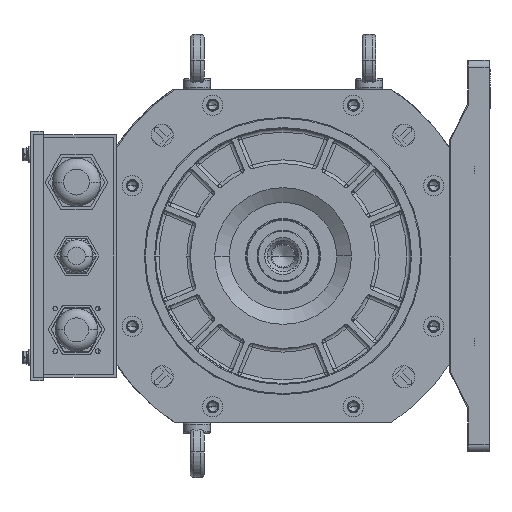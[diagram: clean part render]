
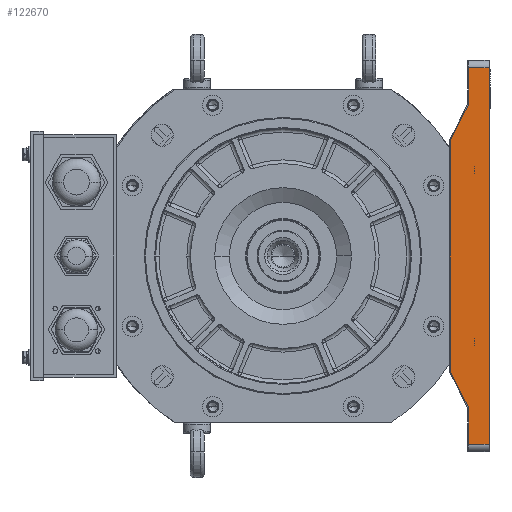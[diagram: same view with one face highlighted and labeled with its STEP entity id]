
A CAD part, left-side view. The second image highlights one B-rep face of the part: STEP entity #122670.
In plain terms, the highlighted planar face has unit normal (-1, 0, 0) as drawn and (0, 0, -1) by its records, which use the part's own axes.
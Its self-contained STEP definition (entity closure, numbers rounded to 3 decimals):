
#8 = DIRECTION ( 'NONE',  ( 0., 0., 1. ) ) ;
#4082 = ORIENTED_EDGE ( 'NONE', *, *, #98882, .T. ) ;
#5050 = DIRECTION ( 'NONE',  ( 1., 0., 0. ) ) ;
#5333 = EDGE_LOOP ( 'NONE', ( #4082, #30727, #104658, #9723, #30858, #73038, #33603, #7751, #75173, #67151 ) ) ;
#5356 = EDGE_CURVE ( 'NONE', #90296, #63353, #114472, .T. ) ;
#7751 = ORIENTED_EDGE ( 'NONE', *, *, #59859, .T. ) ;
#7775 = CARTESIAN_POINT ( 'NONE',  ( -102., 12., 0. ) ) ;
#8340 = DIRECTION ( 'NONE',  ( -1., 0., 0. ) ) ;
#8473 = LINE ( 'NONE', #99149, #28931 ) ;
#8678 = CARTESIAN_POINT ( 'NONE',  ( -62.382, 21.5, 0. ) ) ;
#9351 = AXIS2_PLACEMENT_3D ( 'NONE', #37580, #108153, #47701 ) ;
#9723 = ORIENTED_EDGE ( 'NONE', *, *, #76282, .T. ) ;
#17187 = CARTESIAN_POINT ( 'NONE',  ( 0., 0., 0. ) ) ;
#17742 = CARTESIAN_POINT ( 'NONE',  ( 82.171, 11.606, 0. ) ) ;
#18800 = AXIS2_PLACEMENT_3D ( 'NONE', #17187, #109218, #8340 ) ;
#21382 = CARTESIAN_POINT ( 'NONE',  ( 102., 11.5, 0. ) ) ;
#28098 = LINE ( 'NONE', #119529, #34350 ) ;
#28931 = VECTOR ( 'NONE', #40470, 1000. ) ;
#30727 = ORIENTED_EDGE ( 'NONE', *, *, #79163, .T. ) ;
#30858 = ORIENTED_EDGE ( 'NONE', *, *, #36137, .T. ) ;
#32602 = DIRECTION ( 'NONE',  ( 1., 0., 0. ) ) ;
#32683 = LINE ( 'NONE', #98127, #110035 ) ;
#33603 = ORIENTED_EDGE ( 'NONE', *, *, #5356, .T. ) ;
#34350 = VECTOR ( 'NONE', #79729, 1000. ) ;
#36137 = EDGE_CURVE ( 'NONE', #72475, #79836, #88054, .T. ) ;
#37580 = CARTESIAN_POINT ( 'NONE',  ( 82.618, 12.5, 0. ) ) ;
#38986 = DIRECTION ( 'NONE',  ( 0., 1., 0. ) ) ;
#40470 = DIRECTION ( 'NONE',  ( 0., -1., 0. ) ) ;
#44170 = LINE ( 'NONE', #76725, #47380 ) ;
#44971 = FACE_OUTER_BOUND ( 'NONE', #5333, .T. ) ;
#47380 = VECTOR ( 'NONE', #5050, 1000. ) ;
#47420 = CARTESIAN_POINT ( 'NONE',  ( 82.171, 11.606, 0. ) ) ;
#47701 = DIRECTION ( 'NONE',  ( -1., 0., 0. ) ) ;
#48458 = DIRECTION ( 'NONE',  ( 1., 0., 0. ) ) ;
#48826 = PLANE ( 'NONE',  #18800 ) ;
#50956 = DIRECTION ( 'NONE',  ( -1., 0., 0. ) ) ;
#52953 = LINE ( 'NONE', #108020, #114243 ) ;
#53711 = CARTESIAN_POINT ( 'NONE',  ( 62.382, 21.5, 0. ) ) ;
#57907 = CARTESIAN_POINT ( 'NONE',  ( -82.618, 11.5, 0. ) ) ;
#59233 = EDGE_CURVE ( 'NONE', #90784, #124784, #44170, .T. ) ;
#59859 = EDGE_CURVE ( 'NONE', #63353, #93573, #89856, .T. ) ;
#63353 = VERTEX_POINT ( 'NONE', #53711 ) ;
#64872 = VERTEX_POINT ( 'NONE', #91011 ) ;
#65145 = VERTEX_POINT ( 'NONE', #67225 ) ;
#66515 = CIRCLE ( 'NONE', #9351, 1. ) ;
#67055 = EDGE_CURVE ( 'NONE', #64872, #65145, #85827, .T. ) ;
#67151 = ORIENTED_EDGE ( 'NONE', *, *, #59233, .T. ) ;
#67225 = CARTESIAN_POINT ( 'NONE',  ( -102., 11.5, 0. ) ) ;
#70610 = VERTEX_POINT ( 'NONE', #85273 ) ;
#72475 = VERTEX_POINT ( 'NONE', #57907 ) ;
#73038 = ORIENTED_EDGE ( 'NONE', *, *, #104882, .T. ) ;
#75173 = ORIENTED_EDGE ( 'NONE', *, *, #113571, .T. ) ;
#76282 = EDGE_CURVE ( 'NONE', #65145, #72475, #52953, .T. ) ;
#76323 = VECTOR ( 'NONE', #38986, 1000. ) ;
#76725 = CARTESIAN_POINT ( 'NONE',  ( 102., 11.5, 0. ) ) ;
#79163 = EDGE_CURVE ( 'NONE', #70610, #64872, #32683, .T. ) ;
#79729 = DIRECTION ( 'NONE',  ( 0.894, 0.447, 0. ) ) ;
#79836 = VERTEX_POINT ( 'NONE', #122610 ) ;
#85273 = CARTESIAN_POINT ( 'NONE',  ( 102., 0.5, 0. ) ) ;
#85827 = LINE ( 'NONE', #7775, #76323 ) ;
#88054 = CIRCLE ( 'NONE', #104019, 1. ) ;
#89856 = LINE ( 'NONE', #17742, #96188 ) ;
#90296 = VERTEX_POINT ( 'NONE', #8678 ) ;
#90784 = VERTEX_POINT ( 'NONE', #128613 ) ;
#91011 = CARTESIAN_POINT ( 'NONE',  ( -102., 0.5, 0. ) ) ;
#93573 = VERTEX_POINT ( 'NONE', #47420 ) ;
#96188 = VECTOR ( 'NONE', #108537, 1000. ) ;
#98127 = CARTESIAN_POINT ( 'NONE',  ( -102., 0.5, 0. ) ) ;
#98882 = EDGE_CURVE ( 'NONE', #124784, #70610, #8473, .T. ) ;
#99149 = CARTESIAN_POINT ( 'NONE',  ( 102., 0., 0. ) ) ;
#101697 = CARTESIAN_POINT ( 'NONE',  ( -82.618, 12.5, 0. ) ) ;
#104019 = AXIS2_PLACEMENT_3D ( 'NONE', #101697, #8, #50956 ) ;
#104658 = ORIENTED_EDGE ( 'NONE', *, *, #67055, .T. ) ;
#104882 = EDGE_CURVE ( 'NONE', #79836, #90296, #28098, .T. ) ;
#108020 = CARTESIAN_POINT ( 'NONE',  ( -82.618, 11.5, 0. ) ) ;
#108153 = DIRECTION ( 'NONE',  ( 0., 0., 1. ) ) ;
#108537 = DIRECTION ( 'NONE',  ( 0.894, -0.447, 0. ) ) ;
#109218 = DIRECTION ( 'NONE',  ( 0., 0., -1. ) ) ;
#110035 = VECTOR ( 'NONE', #117575, 1000. ) ;
#112840 = VECTOR ( 'NONE', #32602, 1000. ) ;
#113571 = EDGE_CURVE ( 'NONE', #93573, #90784, #66515, .T. ) ;
#114243 = VECTOR ( 'NONE', #48458, 1000. ) ;
#114472 = LINE ( 'NONE', #122145, #112840 ) ;
#117575 = DIRECTION ( 'NONE',  ( -1., 0., 0. ) ) ;
#119529 = CARTESIAN_POINT ( 'NONE',  ( -62.382, 21.5, 0. ) ) ;
#122145 = CARTESIAN_POINT ( 'NONE',  ( 62.382, 21.5, 0. ) ) ;
#122610 = CARTESIAN_POINT ( 'NONE',  ( -82.171, 11.606, 0. ) ) ;
#122670 = ADVANCED_FACE ( 'NONE', ( #44971 ), #48826, .T. ) ;
#124784 = VERTEX_POINT ( 'NONE', #21382 ) ;
#128613 = CARTESIAN_POINT ( 'NONE',  ( 82.618, 11.5, 0. ) ) ;
